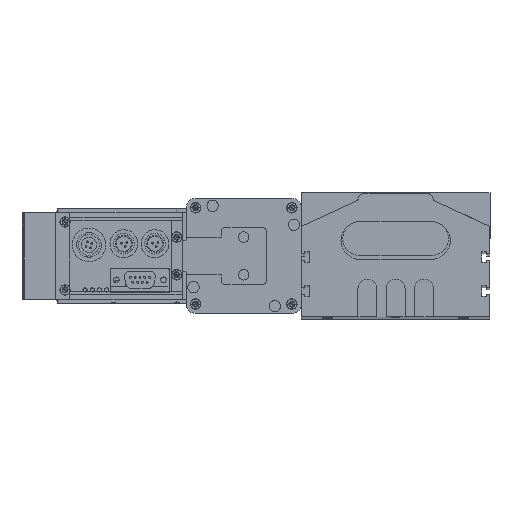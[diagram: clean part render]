
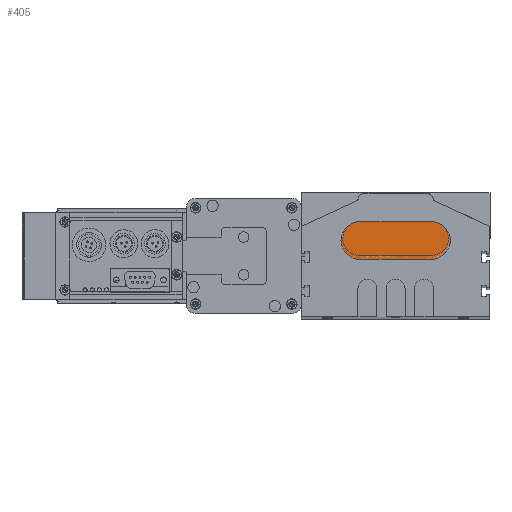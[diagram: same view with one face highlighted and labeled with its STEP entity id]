
A CAD part, top view. The second image highlights one B-rep face of the part: STEP entity #405.
In plain terms, the highlighted planar face has unit normal (0, 0, 1).
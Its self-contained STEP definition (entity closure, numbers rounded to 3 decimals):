
#277 = ORIENTED_EDGE ( 'NONE', *, *, #21493, .T. ) ;
#278 = EDGE_CURVE ( 'NONE', #23755, #11498, #6338, .T. ) ;
#356 = ORIENTED_EDGE ( 'NONE', *, *, #22676, .T. ) ;
#361 = ORIENTED_EDGE ( 'NONE', *, *, #23942, .T. ) ;
#405 = ADVANCED_FACE ( 'NONE', ( #6639 ), #6647, .T. ) ;
#643 = EDGE_LOOP ( 'NONE', ( #277, #23921, #361, #356, #23939 ) ) ;
#6333 = DIRECTION ( 'NONE',  ( -1., 0., 0. ) ) ;
#6335 = VECTOR ( 'NONE', #6333, 1000. ) ;
#6337 = CARTESIAN_POINT ( 'NONE',  ( 0., 20., 10. ) ) ;
#6338 = LINE ( 'NONE', #6337, #6335 ) ;
#6632 = DIRECTION ( 'NONE',  ( 1., 0., 0. ) ) ;
#6637 = DIRECTION ( 'NONE',  ( 0., 0., 1. ) ) ;
#6639 = FACE_OUTER_BOUND ( 'NONE', #643, .T. ) ;
#6644 = CARTESIAN_POINT ( 'NONE',  ( 0., 10., 10. ) ) ;
#6647 = PLANE ( 'NONE',  #6656 ) ;
#6656 = AXIS2_PLACEMENT_3D ( 'NONE', #6644, #6637, #6632 ) ;
#11498 = VERTEX_POINT ( 'NONE', #14255 ) ;
#11723 = EDGE_CURVE ( 'NONE', #14761, #14766, #14295, .T. ) ;
#13479 = VERTEX_POINT ( 'NONE', #14413 ) ;
#14255 = CARTESIAN_POINT ( 'NONE',  ( 0., 20., 10. ) ) ;
#14291 = CARTESIAN_POINT ( 'NONE',  ( 0., 10., 10. ) ) ;
#14295 = CIRCLE ( 'NONE', #14351, 10. ) ;
#14303 = DIRECTION ( 'NONE',  ( 0., 0., 1. ) ) ;
#14350 = DIRECTION ( 'NONE',  ( 1., 0., 0. ) ) ;
#14351 = AXIS2_PLACEMENT_3D ( 'NONE', #14291, #14303, #14350 ) ;
#14413 = CARTESIAN_POINT ( 'NONE',  ( 38., 0., 10. ) ) ;
#14523 = CARTESIAN_POINT ( 'NONE',  ( -10., 10., 10. ) ) ;
#14576 = CARTESIAN_POINT ( 'NONE',  ( 0., 0., 10. ) ) ;
#14761 = VERTEX_POINT ( 'NONE', #14523 ) ;
#14766 = VERTEX_POINT ( 'NONE', #14576 ) ;
#15185 = AXIS2_PLACEMENT_3D ( 'NONE', #15240, #15235, #15234 ) ;
#15195 = CIRCLE ( 'NONE', #15185, 10. ) ;
#15234 = DIRECTION ( 'NONE',  ( 1., 0., 0. ) ) ;
#15235 = DIRECTION ( 'NONE',  ( 0., 0., 1. ) ) ;
#15240 = CARTESIAN_POINT ( 'NONE',  ( 0., 10., 10. ) ) ;
#15311 = CIRCLE ( 'NONE', #15380, 10. ) ;
#15318 = CARTESIAN_POINT ( 'NONE',  ( 38., 10., 10. ) ) ;
#15364 = DIRECTION ( 'NONE',  ( -1., 0., 0. ) ) ;
#15365 = DIRECTION ( 'NONE',  ( 0., 0., 1. ) ) ;
#15380 = AXIS2_PLACEMENT_3D ( 'NONE', #15318, #15365, #15364 ) ;
#15571 = CARTESIAN_POINT ( 'NONE',  ( 38., 20., 10. ) ) ;
#15625 = DIRECTION ( 'NONE',  ( 1., 0., 0. ) ) ;
#15626 = VECTOR ( 'NONE', #15625, 1000. ) ;
#15627 = CARTESIAN_POINT ( 'NONE',  ( 0., 0., 10. ) ) ;
#15628 = LINE ( 'NONE', #15627, #15626 ) ;
#21493 = EDGE_CURVE ( 'NONE', #11498, #14761, #15195, .T. ) ;
#22676 = EDGE_CURVE ( 'NONE', #13479, #23755, #15311, .T. ) ;
#23755 = VERTEX_POINT ( 'NONE', #15571 ) ;
#23921 = ORIENTED_EDGE ( 'NONE', *, *, #11723, .T. ) ;
#23939 = ORIENTED_EDGE ( 'NONE', *, *, #278, .T. ) ;
#23942 = EDGE_CURVE ( 'NONE', #14766, #13479, #15628, .T. ) ;
